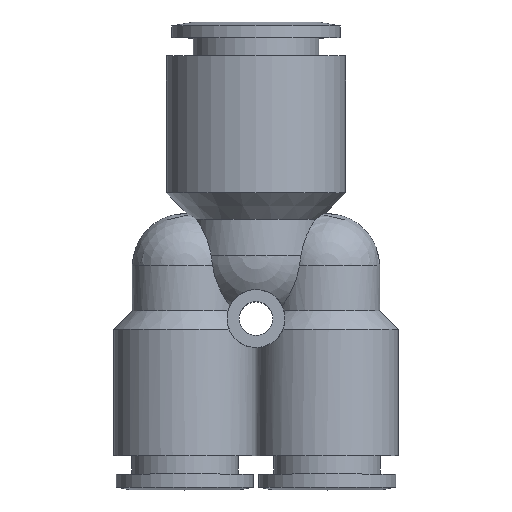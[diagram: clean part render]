
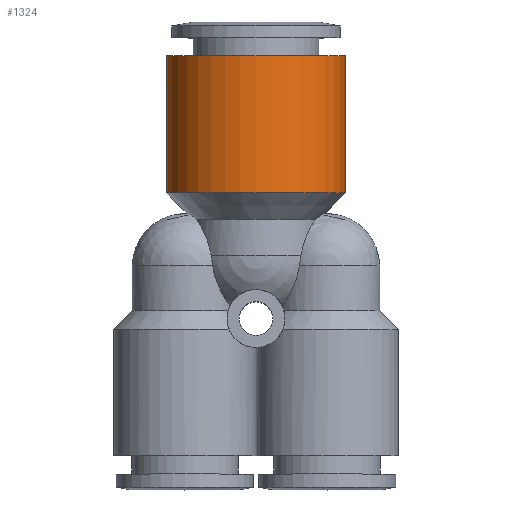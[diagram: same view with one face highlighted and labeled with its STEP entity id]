
A CAD part, top view. The second image highlights one B-rep face of the part: STEP entity #1324.
In plain terms, the highlighted cylindrical face has radius 8.5 mm (diameter 17 mm), a full revolution.
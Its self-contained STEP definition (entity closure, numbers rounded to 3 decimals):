
#1293=CARTESIAN_POINT('',(-8.5,11.95,0.0));
#1294=VERTEX_POINT('',#1293);
#1295=CARTESIAN_POINT('',(0.0,11.95,0.0));
#1296=DIRECTION('',(0.0,1.0,0.0));
#1297=DIRECTION('',(-1.0,0.0,0.0));
#1298=AXIS2_PLACEMENT_3D('',#1295,#1296,#1297);
#1299=CIRCLE('',#1298,8.5);
#1300=EDGE_CURVE('',#1294,#1294,#1299,.T.);
#1305=CARTESIAN_POINT('',(0.0,18.45,0.0));
#1306=DIRECTION('',(0.0,1.0,0.0));
#1307=DIRECTION('',(-1.0,0.0,0.0));
#1308=AXIS2_PLACEMENT_3D('',#1305,#1306,#1307);
#1309=CYLINDRICAL_SURFACE('',#1308,8.5);
#1310=CARTESIAN_POINT('',(-8.5,24.95,0.0));
#1311=VERTEX_POINT('',#1310);
#1312=CARTESIAN_POINT('',(0.0,24.95,0.0));
#1313=DIRECTION('',(0.0,1.0,0.0));
#1314=DIRECTION('',(-1.0,0.0,0.0));
#1315=AXIS2_PLACEMENT_3D('',#1312,#1313,#1314);
#1316=CIRCLE('',#1315,8.5);
#1317=EDGE_CURVE('',#1311,#1311,#1316,.T.);
#1318=ORIENTED_EDGE('',*,*,#1317,.F.);
#1319=EDGE_LOOP('',(#1318));
#1320=FACE_OUTER_BOUND('',#1319,.T.);
#1321=ORIENTED_EDGE('',*,*,#1300,.T.);
#1322=EDGE_LOOP('',(#1321));
#1323=FACE_BOUND('',#1322,.T.);
#1324=ADVANCED_FACE('',(#1320,#1323),#1309,.T.);
